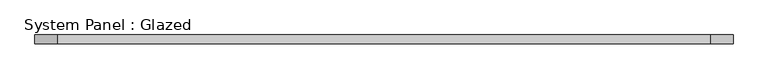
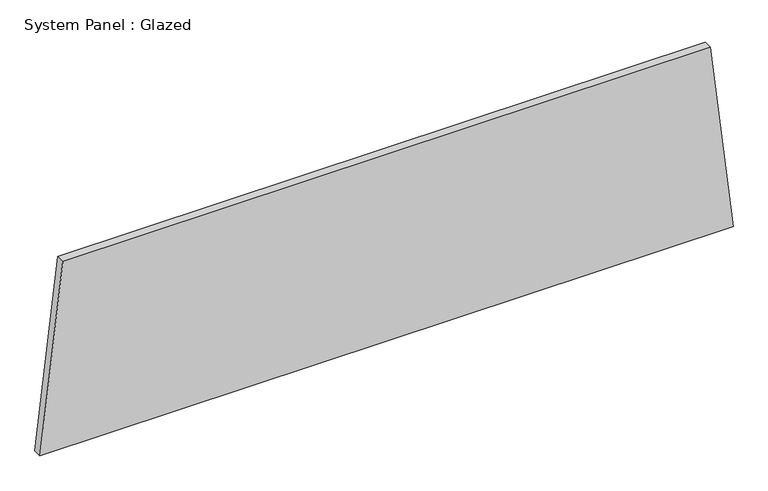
"""IFC4 building model written with IfcOpenShell, lengths in millimetres: plate geometry, System Panel : Glazed."""

from ifc_helpers import new_model, si_unit, frame, origin, place, context, project, spatial, polyline, outline, extrude, source, transform, mapped, element, save


def system_panel_glazed_185472ef(model_context):
    return source(origin(), model_context, "Body", "SweptSolid", [
        extrude(outline(polyline([(0.0, -1017.2156884), (0.0, 1017.2156884), (580.1853211, 950.2984421), (580.1853211, -950.2984421), (0.0, -1017.2156884)])), frame((0.0, -44.45, 0.0), z_axis=(0.0, 1.0, 0.0), x_axis=(0.0, 0.0, 1.0)), (0.0, 0.0, 1.0), 25.4),
    ])


if __name__ == "__main__":
    model = new_model("IFC4")
    model_context = context("Model", 3, world=origin())
    ifc_project = project(units=[si_unit("LENGTHUNIT", "METRE", prefix="MILLI")], contexts=[model_context])
    site = spatial("IfcSite", under=ifc_project)
    building = spatial("IfcBuilding", under=site)
    placement = place(None, origin())
    system_panel_glazed_shape = system_panel_glazed_185472ef(model_context)
    element("IfcPlate", 1, ObjectType="System Panel : Glazed", at=placement, inside=building, context=model_context, shape_type="MappedRepresentation", body=[
        mapped(system_panel_glazed_shape, transform((0.0, 0.0, 0.0), x_axis=(1.0, 0.0, 0.0), y_axis=(0.0, 1.0, 0.0), z_axis=(0.0, 0.0, 1.0))),
    ])
    save(model, "model.ifc")
